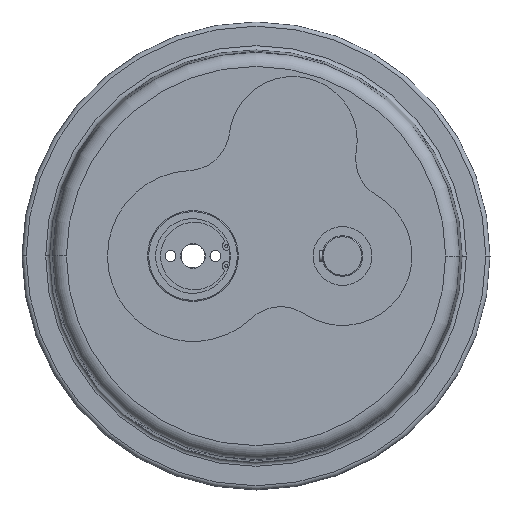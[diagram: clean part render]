
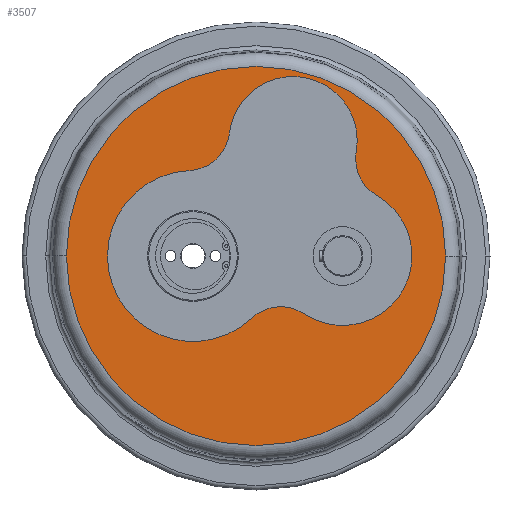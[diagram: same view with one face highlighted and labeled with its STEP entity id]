
A CAD part, left-side view. The second image highlights one B-rep face of the part: STEP entity #3507.
In plain terms, the highlighted planar face has unit normal (-1, 0, 0).
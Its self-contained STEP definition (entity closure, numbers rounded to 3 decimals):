
#22 = DIRECTION ( 'NONE',  ( -1., 0., 0. ) ) ;
#75 = AXIS2_PLACEMENT_3D ( 'NONE', #2881, #187, #2592 ) ;
#94 = VERTEX_POINT ( 'NONE', #3379 ) ;
#165 = VERTEX_POINT ( 'NONE', #652 ) ;
#187 = DIRECTION ( 'NONE',  ( -1., 0., 0. ) ) ;
#222 = CARTESIAN_POINT ( 'NONE',  ( -98., 0., 0. ) ) ;
#224 = DIRECTION ( 'NONE',  ( 0., 1., 0. ) ) ;
#276 = AXIS2_PLACEMENT_3D ( 'NONE', #868, #3280, #3294 ) ;
#329 = AXIS2_PLACEMENT_3D ( 'NONE', #3324, #3580, #1233 ) ;
#352 = CARTESIAN_POINT ( 'NONE',  ( -98., -102.062, 0. ) ) ;
#432 = CARTESIAN_POINT ( 'NONE',  ( -98., -93.278, 91.06 ) ) ;
#467 = VERTEX_POINT ( 'NONE', #432 ) ;
#559 = EDGE_CURVE ( 'NONE', #1362, #2495, #791, .T. ) ;
#647 = CARTESIAN_POINT ( 'NONE',  ( -98., 59., 0. ) ) ;
#652 = CARTESIAN_POINT ( 'NONE',  ( -98., -45.128, -54.205 ) ) ;
#667 = EDGE_CURVE ( 'NONE', #2495, #1362, #2077, .T. ) ;
#730 = ORIENTED_EDGE ( 'NONE', *, *, #1425, .T. ) ;
#748 = DIRECTION ( 'NONE',  ( 0., 1., 0. ) ) ;
#758 = AXIS2_PLACEMENT_3D ( 'NONE', #647, #2737, #3328 ) ;
#791 = CIRCLE ( 'NONE', #3760, 177.451 ) ;
#868 = CARTESIAN_POINT ( 'NONE',  ( -98., 0., 0. ) ) ;
#893 = DIRECTION ( 'NONE',  ( 0., 1., 0. ) ) ;
#964 = ORIENTED_EDGE ( 'NONE', *, *, #2773, .F. ) ;
#1080 = DIRECTION ( 'NONE',  ( 1., 0., 0. ) ) ;
#1095 = ORIENTED_EDGE ( 'NONE', *, *, #3250, .T. ) ;
#1200 = PLANE ( 'NONE',  #1807 ) ;
#1223 = AXIS2_PLACEMENT_3D ( 'NONE', #1738, #3281, #224 ) ;
#1233 = DIRECTION ( 'NONE',  ( 0., 1., 0. ) ) ;
#1289 = EDGE_LOOP ( 'NONE', ( #3404, #2468, #730, #2025, #1530, #1095, #964, #2257 ) ) ;
#1294 = CIRCLE ( 'NONE', #1223, 80. ) ;
#1355 = VERTEX_POINT ( 'NONE', #1677 ) ;
#1360 = CIRCLE ( 'NONE', #758, 80. ) ;
#1362 = VERTEX_POINT ( 'NONE', #3748 ) ;
#1407 = DIRECTION ( 'NONE',  ( -1., 0., 0. ) ) ;
#1425 = EDGE_CURVE ( 'NONE', #1355, #467, #3028, .T. ) ;
#1530 = ORIENTED_EDGE ( 'NONE', *, *, #3543, .F. ) ;
#1550 = CARTESIAN_POINT ( 'NONE',  ( -98., 4.298, -58.375 ) ) ;
#1566 = CIRCLE ( 'NONE', #2597, 40. ) ;
#1614 = CARTESIAN_POINT ( 'NONE',  ( -98., 139., 0. ) ) ;
#1649 = CARTESIAN_POINT ( 'NONE',  ( -98., 62.713, 79.914 ) ) ;
#1677 = CARTESIAN_POINT ( 'NONE',  ( -98., -93.857, 97.838 ) ) ;
#1712 = DIRECTION ( 'NONE',  ( 0., 1., 0. ) ) ;
#1738 = CARTESIAN_POINT ( 'NONE',  ( -98., 59., 0. ) ) ;
#1742 = EDGE_CURVE ( 'NONE', #1355, #94, #3189, .T. ) ;
#1807 = AXIS2_PLACEMENT_3D ( 'NONE', #352, #2409, #3577 ) ;
#1971 = CARTESIAN_POINT ( 'NONE',  ( -98., -113.363, 56.371 ) ) ;
#2001 = DIRECTION ( 'NONE',  ( -1., 0., 0. ) ) ;
#2025 = ORIENTED_EDGE ( 'NONE', *, *, #3584, .T. ) ;
#2046 = CARTESIAN_POINT ( 'NONE',  ( -98., -133.278, 91.06 ) ) ;
#2077 = CIRCLE ( 'NONE', #276, 177.451 ) ;
#2175 = ORIENTED_EDGE ( 'NONE', *, *, #559, .F. ) ;
#2179 = EDGE_CURVE ( 'NONE', #2317, #3693, #1360, .T. ) ;
#2214 = DIRECTION ( 'NONE',  ( -1., 0., 0. ) ) ;
#2257 = ORIENTED_EDGE ( 'NONE', *, *, #2179, .F. ) ;
#2317 = VERTEX_POINT ( 'NONE', #1649 ) ;
#2330 = CIRCLE ( 'NONE', #2844, 65. ) ;
#2343 = FACE_OUTER_BOUND ( 'NONE', #3006, .T. ) ;
#2358 = VERTEX_POINT ( 'NONE', #1971 ) ;
#2409 = DIRECTION ( 'NONE',  ( -1., 0., 0. ) ) ;
#2468 = ORIENTED_EDGE ( 'NONE', *, *, #1742, .F. ) ;
#2486 = CARTESIAN_POINT ( 'NONE',  ( -98., -81., 0. ) ) ;
#2495 = VERTEX_POINT ( 'NONE', #3675 ) ;
#2558 = DIRECTION ( 'NONE',  ( 0., -1., 0. ) ) ;
#2592 = DIRECTION ( 'NONE',  ( 0., 1., 0. ) ) ;
#2597 = AXIS2_PLACEMENT_3D ( 'NONE', #2046, #22, #893 ) ;
#2737 = DIRECTION ( 'NONE',  ( -1., 0., 0. ) ) ;
#2773 = EDGE_CURVE ( 'NONE', #3693, #2952, #1294, .T. ) ;
#2844 = AXIS2_PLACEMENT_3D ( 'NONE', #2486, #2214, #748 ) ;
#2881 = CARTESIAN_POINT ( 'NONE',  ( -98., -23.054, -87.563 ) ) ;
#2911 = EDGE_CURVE ( 'NONE', #2317, #94, #3387, .T. ) ;
#2914 = CARTESIAN_POINT ( 'NONE',  ( -98., -34.724, 108.004 ) ) ;
#2952 = VERTEX_POINT ( 'NONE', #1550 ) ;
#2971 = CARTESIAN_POINT ( 'NONE',  ( -98., -133.278, 91.06 ) ) ;
#2972 = AXIS2_PLACEMENT_3D ( 'NONE', #2971, #1407, #3785 ) ;
#3006 = EDGE_LOOP ( 'NONE', ( #3607, #2175 ) ) ;
#3028 = CIRCLE ( 'NONE', #2972, 40. ) ;
#3083 = CIRCLE ( 'NONE', #75, 40. ) ;
#3189 = CIRCLE ( 'NONE', #3667, 60. ) ;
#3240 = FACE_BOUND ( 'NONE', #1289, .T. ) ;
#3250 = EDGE_CURVE ( 'NONE', #165, #2952, #3083, .T. ) ;
#3280 = DIRECTION ( 'NONE',  ( 1., 0., 0. ) ) ;
#3281 = DIRECTION ( 'NONE',  ( -1., 0., 0. ) ) ;
#3294 = DIRECTION ( 'NONE',  ( 0., -1., 0. ) ) ;
#3324 = CARTESIAN_POINT ( 'NONE',  ( -98., 64.569, 119.871 ) ) ;
#3328 = DIRECTION ( 'NONE',  ( 0., 1., 0. ) ) ;
#3379 = CARTESIAN_POINT ( 'NONE',  ( -98., 24.852, 115.124 ) ) ;
#3387 = CIRCLE ( 'NONE', #329, 40. ) ;
#3404 = ORIENTED_EDGE ( 'NONE', *, *, #2911, .T. ) ;
#3507 = ADVANCED_FACE ( 'NONE', ( #2343, #3240 ), #1200, .T. ) ;
#3543 = EDGE_CURVE ( 'NONE', #165, #2358, #2330, .T. ) ;
#3577 = DIRECTION ( 'NONE',  ( 0., -1., 0. ) ) ;
#3580 = DIRECTION ( 'NONE',  ( -1., 0., 0. ) ) ;
#3584 = EDGE_CURVE ( 'NONE', #467, #2358, #1566, .T. ) ;
#3607 = ORIENTED_EDGE ( 'NONE', *, *, #667, .F. ) ;
#3667 = AXIS2_PLACEMENT_3D ( 'NONE', #2914, #2001, #1712 ) ;
#3675 = CARTESIAN_POINT ( 'NONE',  ( -98., -177.451, 0. ) ) ;
#3693 = VERTEX_POINT ( 'NONE', #1614 ) ;
#3748 = CARTESIAN_POINT ( 'NONE',  ( -98., 177.451, 0. ) ) ;
#3760 = AXIS2_PLACEMENT_3D ( 'NONE', #222, #1080, #2558 ) ;
#3785 = DIRECTION ( 'NONE',  ( 0., 1., 0. ) ) ;
